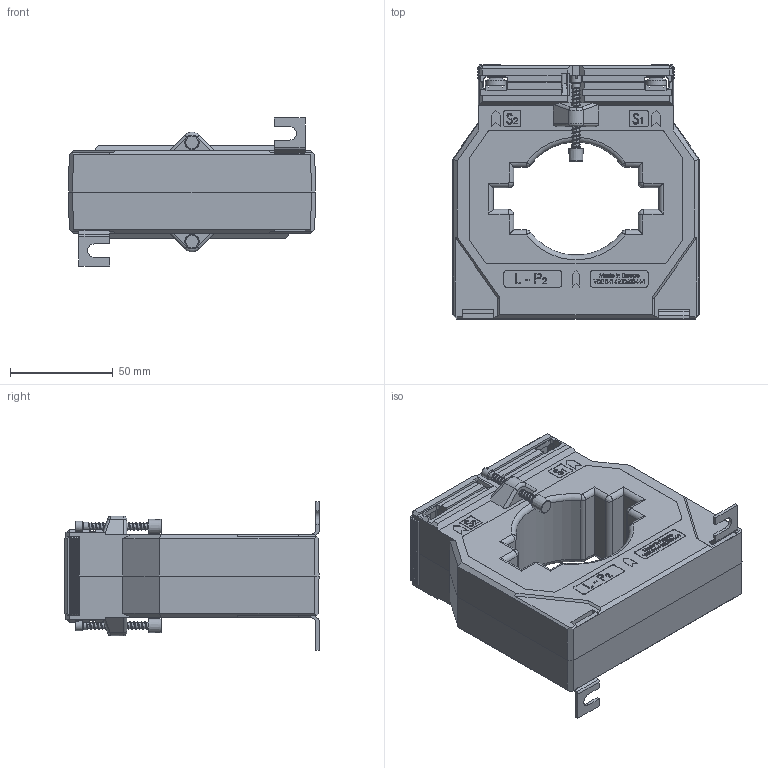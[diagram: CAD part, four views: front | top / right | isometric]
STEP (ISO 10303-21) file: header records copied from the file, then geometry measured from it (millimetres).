
FILE_DESCRIPTION(/* description */ (''),/* implementation_level */ '2;1');
FILE_NAME(/* name */ 'ASK81.4.stp',/* time_stamp */ '2024-03-04T13:50:18+01:00',/* author */ ('JDI'),/* organization */ (''),/* preprocessor_version */ 'ST-DEVELOPER v19.2',/* originating_system */ 'Autodesk Inventor 2023',/* authorisation */ '');
FILE_SCHEMA (('AUTOMOTIVE_DESIGN { 1 0 10303 214 3 1 1 }'));
Products named in the file (1): ASK81.4
Bounding box: 120 x 123.5 x 72 mm (x, y, z)
Volume: 425586.8 mm3; surface area: 63023 mm2
Topology: 1 solids, 1 shells, 1809 faces, 4831 edges, 3112 vertices
Faces by surface type: plane 1213, bspline 336, cylinder 222, cone 20, torus 10, sphere 8
Full cylindrical faces by diameter (mm): 2.95 x2, 3 x36, 3.4 x7, 3.8 x3, 4 x22, 4.1 x2, 4.4 x2, 5 x2, 10 x4
Entity records: 81971 total; most frequent: CARTESIAN_POINT 37418, ORIENTED_EDGE 9662, DIRECTION 7441, EDGE_CURVE 4831, LINE 3503, VECTOR 3503, VERTEX_POINT 3112, EDGE_LOOP 1971
